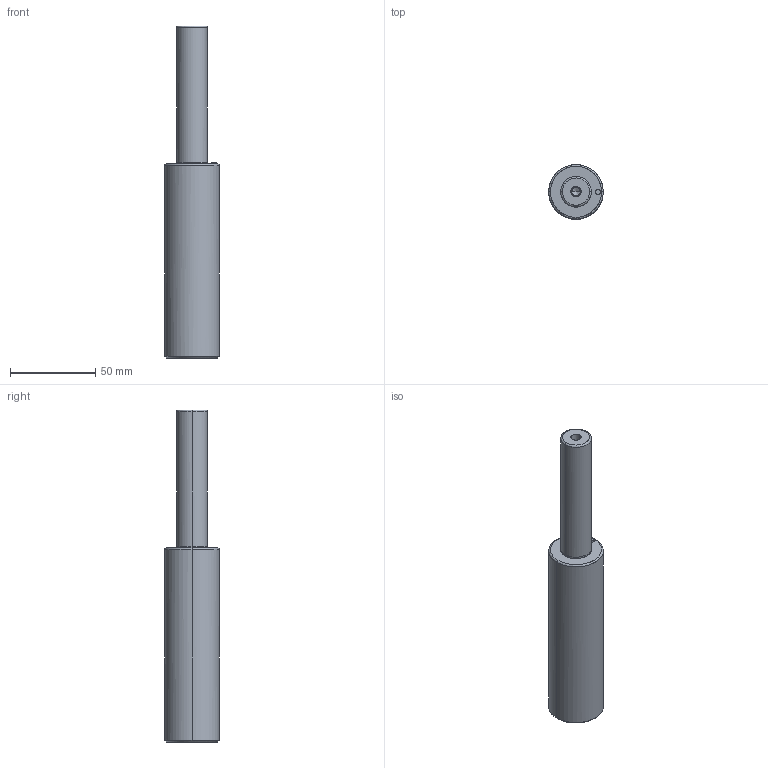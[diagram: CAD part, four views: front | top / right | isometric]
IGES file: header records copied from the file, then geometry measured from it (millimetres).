
Global section: file name: E:\UnigraphicsGraphicData\MISUMI_PRESS-PARTS\IGES\3d_gsc32-80_03820_r00.igs; native system: NX V5.0; preprocessor: UGS NX IGES V5.0; author: MISUMI; date: 20110105.160746; units: millimetre
Bounding box: 32 x 31.97 x 195 mm (x, y, z)
Surface area: 17932.3 mm2 (no closed solid volume)
Topology: 0 solids, 0 shells, 32 faces, 216 edges, 212 vertices
Faces by surface type: bspline 32
